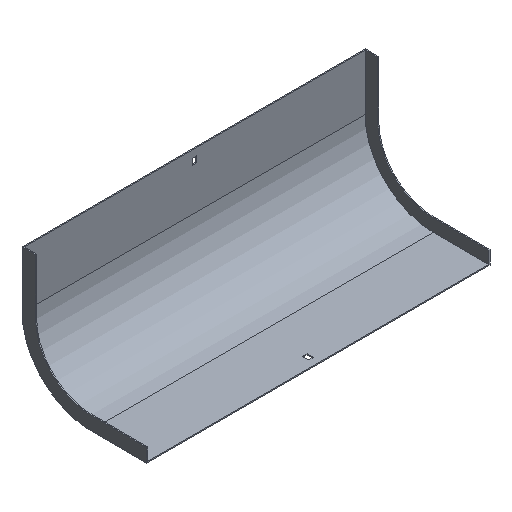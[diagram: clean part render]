
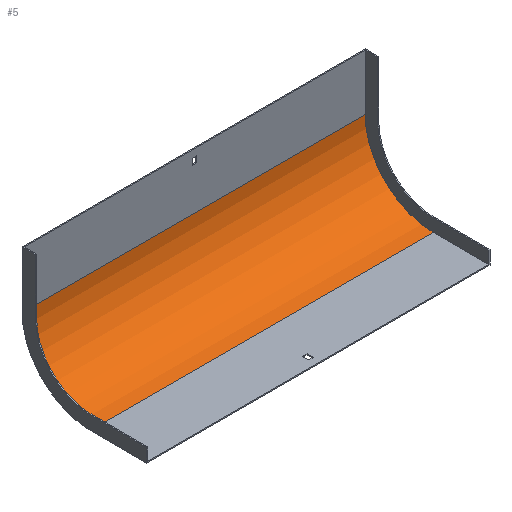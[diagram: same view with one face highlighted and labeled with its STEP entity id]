
A CAD part, isometric view. The second image highlights one B-rep face of the part: STEP entity #5.
In plain terms, the highlighted cylindrical face has radius 100 mm (diameter 200 mm), a partial arc.
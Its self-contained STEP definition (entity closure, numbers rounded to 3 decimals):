
#5 = ADVANCED_FACE ( 'NONE', ( #746 ), #74, .F. ) ;
#14 = VERTEX_POINT ( 'NONE', #807 ) ;
#50 = ORIENTED_EDGE ( 'NONE', *, *, #351, .T. ) ;
#55 = ORIENTED_EDGE ( 'NONE', *, *, #772, .F. ) ;
#72 = DIRECTION ( 'NONE',  ( 1., 0., 0. ) ) ;
#73 = AXIS2_PLACEMENT_3D ( 'NONE', #804, #531, #596 ) ;
#74 = CYLINDRICAL_SURFACE ( 'NONE', #101, 100. ) ;
#101 = AXIS2_PLACEMENT_3D ( 'NONE', #805, #408, #206 ) ;
#166 = LINE ( 'NONE', #765, #336 ) ;
#189 = EDGE_LOOP ( 'NONE', ( #786, #55, #50, #704 ) ) ;
#204 = CARTESIAN_POINT ( 'NONE',  ( 250.5, -101.5, -182. ) ) ;
#206 = DIRECTION ( 'NONE',  ( 0., 0., 1. ) ) ;
#255 = EDGE_CURVE ( 'NONE', #14, #584, #166, .T. ) ;
#264 = CARTESIAN_POINT ( 'NONE',  ( -250.5, -101.5, -182. ) ) ;
#285 = DIRECTION ( 'NONE',  ( -1., 0., 0. ) ) ;
#288 = DIRECTION ( 'NONE',  ( -1., 0., 0. ) ) ;
#303 = CARTESIAN_POINT ( 'NONE',  ( 252., -101.5, -182. ) ) ;
#336 = VECTOR ( 'NONE', #285, 1000. ) ;
#351 = EDGE_CURVE ( 'NONE', #493, #14, #751, .T. ) ;
#408 = DIRECTION ( 'NONE',  ( -1., 0., 0. ) ) ;
#493 = VERTEX_POINT ( 'NONE', #204 ) ;
#499 = EDGE_CURVE ( 'NONE', #840, #584, #779, .T. ) ;
#531 = DIRECTION ( 'NONE',  ( 1., 0., 0. ) ) ;
#565 = CARTESIAN_POINT ( 'NONE',  ( -250.5, -1.5, -82. ) ) ;
#584 = VERTEX_POINT ( 'NONE', #565 ) ;
#596 = DIRECTION ( 'NONE',  ( 0., 0., 1. ) ) ;
#609 = DIRECTION ( 'NONE',  ( 0., 0., 1. ) ) ;
#619 = CARTESIAN_POINT ( 'NONE',  ( -250.5, -101.5, -82. ) ) ;
#646 = VECTOR ( 'NONE', #288, 1000. ) ;
#704 = ORIENTED_EDGE ( 'NONE', *, *, #255, .T. ) ;
#746 = FACE_OUTER_BOUND ( 'NONE', #189, .T. ) ;
#751 = CIRCLE ( 'NONE', #73, 100. ) ;
#764 = AXIS2_PLACEMENT_3D ( 'NONE', #619, #72, #609 ) ;
#765 = CARTESIAN_POINT ( 'NONE',  ( 252., -1.5, -82. ) ) ;
#772 = EDGE_CURVE ( 'NONE', #493, #840, #774, .T. ) ;
#774 = LINE ( 'NONE', #303, #646 ) ;
#779 = CIRCLE ( 'NONE', #764, 100. ) ;
#786 = ORIENTED_EDGE ( 'NONE', *, *, #499, .F. ) ;
#804 = CARTESIAN_POINT ( 'NONE',  ( 250.5, -101.5, -82. ) ) ;
#805 = CARTESIAN_POINT ( 'NONE',  ( 252., -101.5, -82. ) ) ;
#807 = CARTESIAN_POINT ( 'NONE',  ( 250.5, -1.5, -82. ) ) ;
#840 = VERTEX_POINT ( 'NONE', #264 ) ;
